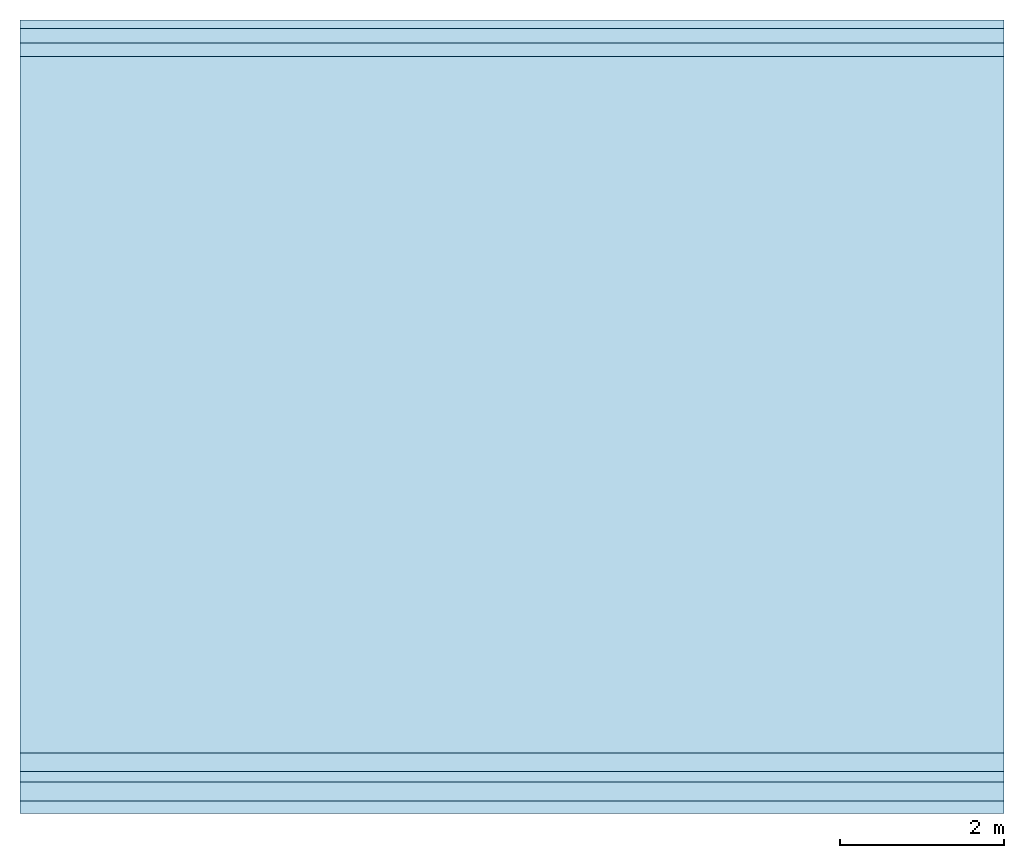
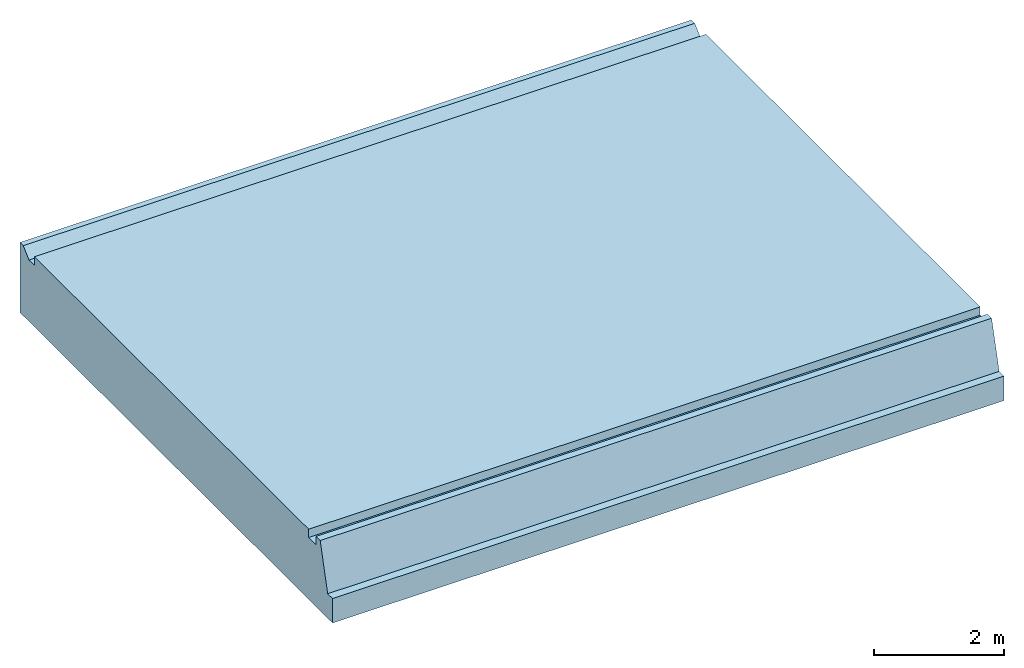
# One storey: 1 slab, 1 element without a shape of its own.
"""IFC2X3 building model written with IfcOpenShell, lengths in millimetres."""

from ifc_helpers import new_model, entity, si_unit, converted_unit, derived_unit, direction, frame, origin, origin_with_axes, place, context, subcontext, project, spatial, faceted_brep, material, type_object, element, aggregate, save


model = new_model("IFC2X3")

# Units and contexts
model_context = context("Model", 3, precision=0.01, world=origin(), true_north=direction((6.12303176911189e-17, 1.0)))
plan_context = context("Plan", 3, precision=1e-05, world=origin_with_axes())
body_context = subcontext(model_context, "Body", "Model", "MODEL_VIEW")
ifc_project = project(units=[converted_unit("PLANEANGLEUNIT", "DEGREE", entity("IfcPositiveLengthMeasure", 0.0174532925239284), si_unit("PLANEANGLEUNIT", "RADIAN"), dimensions=[0, 0, 0, 0, 0, 0, 0]), si_unit("AREAUNIT", "SQUARE_METRE"), si_unit("LENGTHUNIT", "METRE", prefix="MILLI"), si_unit("MASSUNIT", "GRAM", prefix="KILO"), si_unit("POWERUNIT", "WATT"), si_unit("PRESSUREUNIT", "PASCAL"), si_unit("FORCEUNIT", "NEWTON", prefix="KILO"), si_unit("ELECTRICVOLTAGEUNIT", "VOLT"), si_unit("ELECTRICCURRENTUNIT", "AMPERE"), si_unit("THERMODYNAMICTEMPERATUREUNIT", "DEGREE_CELSIUS"), si_unit("TIMEUNIT", "SECOND"), si_unit("VOLUMEUNIT", "CUBIC_METRE"), derived_unit("LINEARVELOCITYUNIT", [(si_unit("LENGTHUNIT", "METRE"), 1), (si_unit("TIMEUNIT", "SECOND"), -1)]), derived_unit("VOLUMETRICFLOWRATEUNIT", [(si_unit("VOLUMEUNIT", "CUBIC_METRE"), 1), (si_unit("TIMEUNIT", "SECOND"), -1)]), derived_unit("THERMALTRANSMITTANCEUNIT", [(si_unit("POWERUNIT", "WATT"), 1), (si_unit("THERMODYNAMICTEMPERATUREUNIT", "KELVIN"), -1), (si_unit("AREAUNIT", "SQUARE_METRE"), -1)]), derived_unit("SOUNDPRESSUREUNIT", [(si_unit("PRESSUREUNIT", "PASCAL"), 1)])], contexts=[model_context, plan_context])

# Site, building, storey
site_placement = place(None, frame((2314154.5009392, 1029894.10887124, 0.0), z_axis=(0.0, 0.0, 1.0), x_axis=(1.0, 0.0, 0.0)))
site = spatial("IfcSite", under=ifc_project, at=site_placement, Name="Default", CompositionType="ELEMENT")
building_placement = place(site_placement, origin_with_axes())
building = spatial("IfcBuilding", under=site, at=building_placement, CompositionType="ELEMENT")
storey_placement = place(building_placement, frame((0.0, 0.0, 18100.0), z_axis=(0.0, 0.0, 1.0), x_axis=(1.0, 0.0, 0.0)))
storey = spatial("IfcBuildingStorey", under=building, at=storey_placement, Name="XX - C +18,10 TB Tak 1", CompositionType="ELEMENT", Elevation=18100.0)

# Roof, slab
ifc_material = material(Name="Default Roof")
roof_placement = place(storey_placement, origin_with_axes())
roof = element("IfcRoof", 1, at=roof_placement, inside=storey, material=ifc_material, Name="V_TA Roof (4):Standard", ObjectType="V_TA Roof (4):Standard", ShapeType="NOTDEFINED")
slab_type = type_object("IfcSlabType", Name="V_TA Roof (4):Standard", PredefinedType="ROOF")
slab_placement = place(roof_placement, origin_with_axes())
slab = element("IfcSlab", 2, at=slab_placement, type_object=slab_type, Name="V_TA Roof (4):Standard:1", ObjectType="V_TA Roof (4):Standard", PredefinedType="ROOF", context=body_context, shape_type="Brep", body=[
    faceted_brep([(131125.33394735, -9147.00164168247, 1106.05235281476), (131125.33394735, -9314.25992720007, 1106.05235281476), (119160.986138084, -9314.25992720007, 1106.05235281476), (119160.986138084, -9147.00164168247, 1106.05235281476), (131125.33394735, -9314.25992720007, 1270.0), (119160.986138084, -9314.25992720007, 1270.0), (119160.986138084, -17779.8434230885, 1114.04086525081), (119160.986138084, -17779.8434230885, 1270.0), (131125.33394735, -17779.8434230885, 1270.0), (131125.33394735, -17779.8434230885, 1114.04086525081), (131125.33394735, -18004.5803253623, 1114.04086525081), (119160.986138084, -18004.5803253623, 1114.04086525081), (131125.33394735, -18004.5803253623, 1270.0), (119160.986138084, -18004.5803253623, 1270.0), (119160.986138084, -18365.7092220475, 409.721996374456), (119160.986138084, -18132.8996946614, 1270.0), (131125.33394735, -18132.8996946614, 1270.0), (131125.33394735, -18365.7092220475, 409.721996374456), (131125.33394735, -18514.2714097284, 409.721996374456), (119160.986138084, -18514.2714097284, 409.721996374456), (119160.986138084, -8869.08723506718, -51.8145071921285), (119160.986138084, -18514.2714097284, -51.8145071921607), (131125.33394735, -18514.2714097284, -51.8145071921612), (131125.33394735, -8869.08723506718, -51.8145071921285), (131125.33394735, -8869.08723506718, 1270.0), (119160.986138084, -8869.08723506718, 1270.0), (119160.986138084, -8971.18931475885, 1270.0), (131125.33394735, -8971.18931475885, 1270.0)], [[[0, 1, 2, 3]], [[1, 4, 5, 2]], [[6, 7, 8, 9]], [[9, 10, 11, 6]], [[10, 12, 13, 11]], [[14, 15, 16, 17]], [[17, 18, 19, 14]], [[20, 21, 22, 23]], [[23, 24, 25, 20]], [[3, 26, 27, 0]], [[18, 17, 16, 12, 10, 9, 8, 4, 1, 0, 27, 24, 23, 22]], [[26, 3, 2, 5, 7, 6, 11, 13, 15, 14, 19, 21, 20, 25]], [[19, 18, 22, 21]], [[8, 7, 5, 4]], [[16, 15, 13, 12]], [[27, 26, 25, 24]]], orient=[[False], [False], [False], [False], [False], [False], [False], [False], [False], [False], [False], [False], [False], [False], [False], [False]]),
])
aggregate(roof, [slab])

save(model, "model.ifc")
